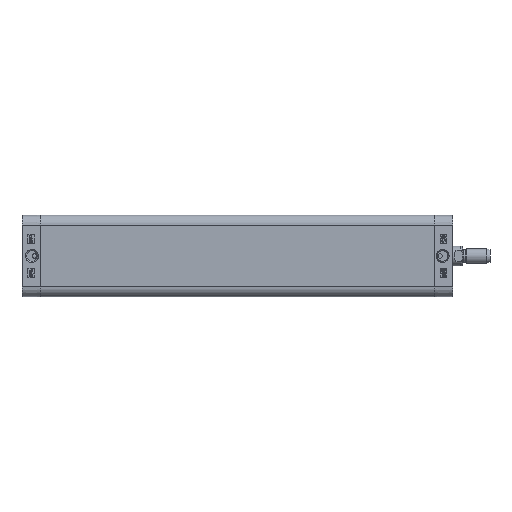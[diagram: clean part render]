
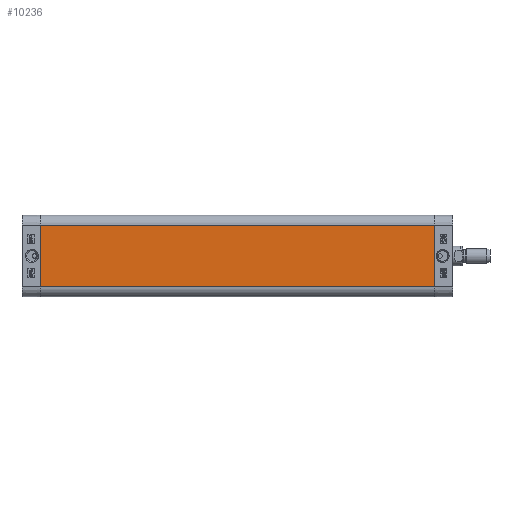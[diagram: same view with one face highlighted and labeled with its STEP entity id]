
A CAD part, left-side view. The second image highlights one B-rep face of the part: STEP entity #10236.
In plain terms, the highlighted planar face has unit normal (-1, 0, 0).
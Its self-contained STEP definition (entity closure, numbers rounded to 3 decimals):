
#5238=CARTESIAN_POINT('',(-32.75,-316.0,24.75));
#5239=VERTEX_POINT('',#5238);
#5246=CARTESIAN_POINT('',(-32.75,-316.0,-24.75));
#5247=VERTEX_POINT('',#5246);
#5248=CARTESIAN_POINT('',(-32.75,-316.0,-24.75));
#5249=DIRECTION('',(0.0,0.0,1.0));
#5250=VECTOR('',#5249,49.5);
#5251=LINE('',#5248,#5250);
#5252=EDGE_CURVE('',#5247,#5239,#5251,.T.);
#10194=CARTESIAN_POINT('',(-32.75,0.0,-24.75));
#10195=VERTEX_POINT('',#10194);
#10196=CARTESIAN_POINT('',(-32.75,0.0,-24.75));
#10197=DIRECTION('',(0.0,-1.0,0.0));
#10198=VECTOR('',#10197,316.0);
#10199=LINE('',#10196,#10198);
#10200=EDGE_CURVE('',#10195,#5247,#10199,.T.);
#10213=CARTESIAN_POINT('',(-32.75,0.0,-24.75));
#10214=DIRECTION('',(-1.0,0.0,0.0));
#10215=DIRECTION('',(0.0,0.0,1.0));
#10216=AXIS2_PLACEMENT_3D('',#10213,#10214,#10215);
#10217=PLANE('',#10216);
#10218=ORIENTED_EDGE('',*,*,#5252,.T.);
#10219=CARTESIAN_POINT('',(-32.75,0.0,24.75));
#10220=VERTEX_POINT('',#10219);
#10221=CARTESIAN_POINT('',(-32.75,0.0,24.75));
#10222=DIRECTION('',(0.0,-1.0,0.0));
#10223=VECTOR('',#10222,316.0);
#10224=LINE('',#10221,#10223);
#10225=EDGE_CURVE('',#10220,#5239,#10224,.T.);
#10226=ORIENTED_EDGE('',*,*,#10225,.F.);
#10227=CARTESIAN_POINT('',(-32.75,0.0,-24.75));
#10228=DIRECTION('',(0.0,0.0,1.0));
#10229=VECTOR('',#10228,49.5);
#10230=LINE('',#10227,#10229);
#10231=EDGE_CURVE('',#10195,#10220,#10230,.T.);
#10232=ORIENTED_EDGE('',*,*,#10231,.F.);
#10233=ORIENTED_EDGE('',*,*,#10200,.T.);
#10234=EDGE_LOOP('',(#10218,#10226,#10232,#10233));
#10235=FACE_OUTER_BOUND('',#10234,.T.);
#10236=ADVANCED_FACE('',(#10235),#10217,.T.);
